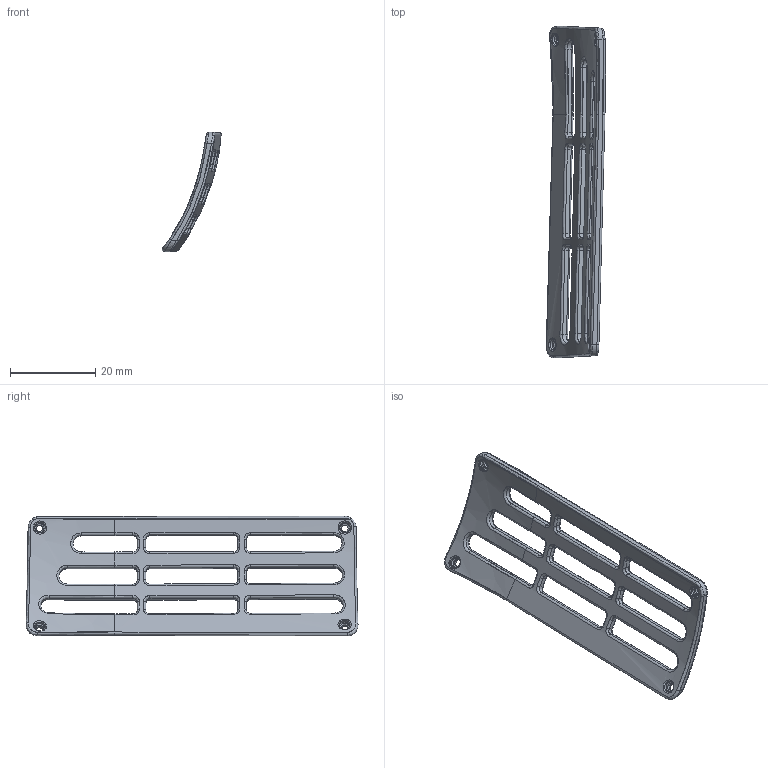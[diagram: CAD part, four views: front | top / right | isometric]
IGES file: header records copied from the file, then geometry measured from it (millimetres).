
Start section: Speaker 2 inch..SLDPRT - PrototypeComponentType Speaker 2 inch..SLDPRT - PrototypeComponentType Speaker 2 inch..SLDPRT - PrototypeComponentType Speaker 2 inch..SLDPRT - PrototypeComponentType 10 rocker-switch-KCD1..SLDPRT - PrototypeComponentType 10 rocker-switch-KCD1..SLDPRT - PrototypeComponentType 10 rocker-switch-KCD1..SLDPRT - PrototypeComponentType 10 rocker-switch-KCD1..SLDPRT - PrototypeCo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
Global section: file name: C:\Users\Victor\Desktop\VentilacionIzquierda.igs; native system: Rhinoceros ( Feb 27 2019 ); preprocessor: Trout Lake IGES 012 Feb 27 2019; date: 240310.231351; units: millimetre
Bounding box: 13.95 x 77.7 x 27.99 mm (x, y, z)
Surface area: 4174.1 mm2 (no closed solid volume)
Topology: 0 solids, 0 shells, 281 faces, 1849 edges, 1847 vertices
Faces by surface type: bspline 281
